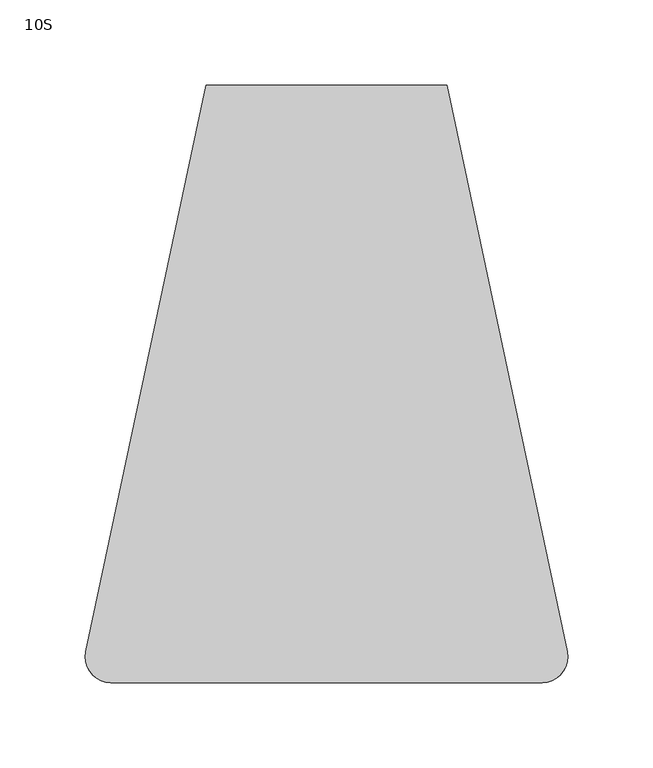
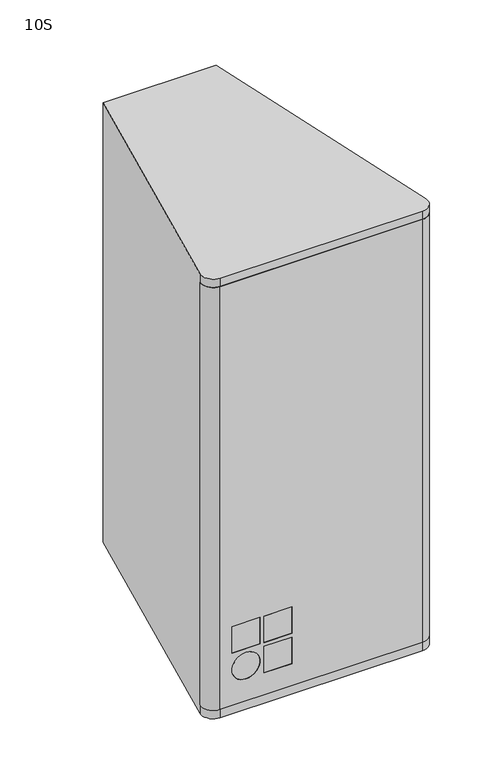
"""IFC4 building model written with IfcOpenShell, lengths in millimetres: proxy geometry, d&b xS-Series 10S Point Source : 10S."""

from ifc_helpers import new_model, si_unit, point, frame, frame_2d, origin, place, context, project, spatial, polyline, circle_curve, trimmed, segment, composite_curve, outline, extrude, source, transform, mapped, element, save
from ifc_brep_helpers import plane_surface, cylinder_surface, revolved_surface, advanced_brep


def proxy_10s_97c97104(model_context):
    return source(origin(), model_context, "Body", "SolidModel", [
        extrude(outline(composite_curve([segment(trimmed(circle_curve(frame_2d((126.4765427, -107.0221826)), 10.0), [point((135.9777986, -103.9035073))], [point((126.4765427, -117.0221826))], False, "CARTESIAN"), True, "CONTINUOUS"), segment(polyline([(126.4765427, -117.0221826), (-126.4765427, -117.0221826)]), True, "CONTINUOUS"), segment(trimmed(circle_curve(frame_2d((-126.4765427, -107.0221826)), 10.0), [point((-126.4765427, -117.0221826))], [point((-135.9777986, -103.9035073))], False, "CARTESIAN"), True, "CONTINUOUS"), segment(polyline([(-135.9777986, -103.9035073), (135.9777986, -103.9035073)]), True, "CONTINUOUS")], self_intersect=False)), frame((0.0, 0.0, -279.0), z_axis=(0.0, 0.0, 1.0), x_axis=(1.0, 0.0, 0.0)), (0.0, 0.0, 1.0), 558.0),
        advanced_brep(
        [(-76.4765427, -122.0221826, -175.0), (-76.4765427, -117.0221826, -175.0), (-76.4765427, -117.0221826, -210.0), (-76.4765427, -122.0221826, -210.0), (-111.4765427, -117.0221826, -210.0), (-111.4765427, -122.0221826, -210.0), (-111.4765427, -117.0221826, -175.0), (-111.4765427, -122.0221826, -175.0), (-36.4765427, -122.0221826, -175.0), (-36.4765427, -117.0221826, -175.0), (-36.4765427, -117.0221826, -210.0), (-36.4765427, -122.0221826, -210.0), (-71.4765427, -117.0221826, -210.0), (-71.4765427, -122.0221826, -210.0), (-71.4765427, -117.0221826, -175.0), (-71.4765427, -122.0221826, -175.0), (-36.4765427, -122.0221826, -215.0), (-36.4765427, -117.0221826, -215.0), (-36.4765427, -117.0221826, -250.0), (-36.4765427, -122.0221826, -250.0), (-71.4765427, -117.0221826, -250.0), (-71.4765427, -122.0221826, -250.0), (-71.4765427, -117.0221826, -215.0), (-71.4765427, -122.0221826, -215.0), (-93.9765427, -122.0221826, -250.0), (-93.9765427, -117.0221826, -250.0), (-93.9765427, -117.0221826, -215.0), (-93.9765427, -122.0221826, -215.0), (-126.4765427, -122.0221826, 279.0), (126.4765427, -122.0221826, 279.0), (141.1487567, -103.9035073, 279.0), (135.9777986, -103.9035073, 279.0), (126.4765427, -117.0221826, 279.0), (-126.4765427, -117.0221826, 279.0), (-135.9777986, -103.9035073, 279.0), (-141.1487567, -103.9035073, 279.0), (-126.4765427, -122.0221826, -279.0), (-141.1487567, -103.9035073, -279.0), (-135.9777986, -103.9035073, -279.0), (-126.4765427, -117.0221826, -279.0), (126.4765427, -117.0221826, -279.0), (135.9777986, -103.9035073, -279.0), (141.1487567, -103.9035073, -279.0), (126.4765427, -122.0221826, -279.0)],
        [
            (0, 1),
            (1, 2),
            (2, 3),
            (3, 0),
            (2, 4),
            (4, 5),
            (5, 3),
            (4, 6),
            (6, 7),
            (7, 5),
            (0, 7),
            (6, 1),
            (8, 9),
            (9, 10),
            (10, 11),
            (11, 8),
            (10, 12),
            (12, 13),
            (13, 11),
            (12, 14),
            (14, 15),
            (15, 13),
            (8, 15),
            (14, 9),
            (16, 17),
            (17, 18),
            (18, 19),
            (19, 16),
            (18, 20),
            (20, 21),
            (21, 19),
            (20, 22),
            (22, 23),
            (23, 21),
            (16, 23),
            (22, 17),
            (24, 25),
            (25, 26, circle_curve(frame((-93.9765427, -117.0221826, -232.5), z_axis=(0.0, 1.0, 0.0), x_axis=(0.0, 0.0, 1.0)), 17.5)),
            (26, 27),
            (27, 24, circle_curve(frame((-93.9765427, -122.0221826, -232.5), z_axis=(0.0, -1.0, 0.0), x_axis=(0.0, 0.0, 1.0)), 17.5)),
            (24, 27, circle_curve(frame((-93.9765427, -122.0221826, -232.5), z_axis=(0.0, -1.0, 0.0), x_axis=(0.0, 0.0, 1.0)), 17.5)),
            (26, 25, circle_curve(frame((-93.9765427, -117.0221826, -232.5), z_axis=(0.0, 1.0, 0.0), x_axis=(0.0, 0.0, 1.0)), 17.5)),
            (28, 29),
            (29, 30, circle_curve(frame((126.4765427, -107.0221826, 279.0), z_axis=(0.0, 0.0, 1.0), x_axis=(0.0, -1.0, 0.0)), 15.0)),
            (30, 31),
            (31, 32, circle_curve(frame((126.4765427, -107.0221826, 279.0), z_axis=(0.0, 0.0, -1.0), x_axis=(0.0, -1.0, 0.0)), 10.0)),
            (32, 33),
            (33, 34, circle_curve(frame((-126.4765427, -107.0221826, 279.0), z_axis=(0.0, 0.0, -1.0), x_axis=(0.0, -1.0, 0.0)), 10.0)),
            (34, 35),
            (35, 28, circle_curve(frame((-126.4765427, -107.0221826, 279.0), z_axis=(0.0, 0.0, 1.0), x_axis=(0.0, -1.0, 0.0)), 15.0)),
            (36, 37, circle_curve(frame((-126.4765427, -107.0221826, -279.0), z_axis=(0.0, 0.0, -1.0), x_axis=(0.0, -1.0, 0.0)), 15.0)),
            (37, 38),
            (38, 39, circle_curve(frame((-126.4765427, -107.0221826, -279.0), z_axis=(0.0, 0.0, 1.0), x_axis=(0.0, -1.0, 0.0)), 10.0)),
            (39, 40),
            (40, 41, circle_curve(frame((126.4765427, -107.0221826, -279.0), z_axis=(0.0, 0.0, 1.0), x_axis=(0.0, -1.0, 0.0)), 10.0)),
            (41, 42),
            (42, 43, circle_curve(frame((126.4765427, -107.0221826, -279.0), z_axis=(0.0, 0.0, -1.0), x_axis=(0.0, -1.0, 0.0)), 15.0)),
            (43, 36),
            (28, 36),
            (43, 29),
            (42, 30),
            (41, 31),
            (40, 32),
            (39, 33),
            (38, 34),
            (37, 35),
        ],
        [
            plane_surface(frame((-76.4765427, -122.0221826, -210.0), z_axis=(-1.0, 0.0, 0.0), x_axis=(0.0, 1.0, 0.0))),
            plane_surface(frame((-111.4765427, -122.0221826, -210.0), z_axis=(0.0, 0.0, 1.0), x_axis=(0.0, 1.0, 0.0))),
            plane_surface(frame((-111.4765427, -122.0221826, -175.0), z_axis=(1.0, 0.0, 0.0), x_axis=(0.0, 1.0, 0.0))),
            plane_surface(frame((-76.4765427, -122.0221826, -175.0), z_axis=(0.0, 0.0, -1.0), x_axis=(0.0, 1.0, 0.0))),
            plane_surface(frame((-36.4765427, -122.0221826, -210.0), z_axis=(-1.0, 0.0, 0.0), x_axis=(0.0, 1.0, 0.0))),
            plane_surface(frame((-71.4765427, -122.0221826, -210.0), z_axis=(0.0, 0.0, 1.0), x_axis=(0.0, 1.0, 0.0))),
            plane_surface(frame((-71.4765427, -122.0221826, -175.0), z_axis=(1.0, 0.0, 0.0), x_axis=(0.0, 1.0, 0.0))),
            plane_surface(frame((-36.4765427, -122.0221826, -175.0), z_axis=(0.0, 0.0, -1.0), x_axis=(0.0, 1.0, 0.0))),
            plane_surface(frame((-36.4765427, -122.0221826, -250.0), z_axis=(-1.0, 0.0, 0.0), x_axis=(0.0, 1.0, 0.0))),
            plane_surface(frame((-71.4765427, -122.0221826, -250.0), z_axis=(0.0, 0.0, 1.0), x_axis=(0.0, 1.0, 0.0))),
            plane_surface(frame((-71.4765427, -122.0221826, -215.0), z_axis=(1.0, 0.0, 0.0), x_axis=(0.0, 1.0, 0.0))),
            plane_surface(frame((-36.4765427, -122.0221826, -215.0), z_axis=(0.0, 0.0, -1.0), x_axis=(0.0, 1.0, 0.0))),
            revolved_surface(polyline([(-93.9765427, -122.0221826, -215.0), (-93.9765427, -117.0221826, -215.0)]), (-93.9765427, -89.2698909, -232.5), (0.0, -1.0, 0.0)),
            plane_surface(frame((126.4765427, -122.0221826, 279.0), z_axis=(0.0, 0.0, 1.0), x_axis=(1.0, 0.0, 0.0))),
            plane_surface(frame((126.4765427, -122.0221826, -279.0), z_axis=(0.0, 0.0, -1.0), x_axis=(-1.0, 0.0, 0.0))),
            plane_surface(frame((-126.4765427, -122.0221826, 279.0), z_axis=(0.0, -1.0, 0.0), x_axis=(0.0, 0.0, -1.0))),
            cylinder_surface(frame((126.4765427, -107.0221826, -279.0), z_axis=(0.0, 0.0, 1.0), x_axis=(0.0, -1.0, 0.0)), 15.0),
            plane_surface(frame((141.1487567, -103.9035073, 279.0), z_axis=(0.0, 1.0, 0.0), x_axis=(0.0, 0.0, -1.0))),
            revolved_surface(polyline([(126.4765427, -117.0221826, -279.0), (126.4765427, -117.0221826, 279.0)]), (126.4765427, -107.0221826, -279.0), (0.0, 0.0, -1.0)),
            plane_surface(frame((126.4765427, -117.0221826, 279.0), z_axis=(0.0, 1.0, 0.0), x_axis=(0.0, 0.0, -1.0))),
            revolved_surface(polyline([(-126.4765427, -117.0221826, -279.0), (-126.4765427, -117.0221826, 279.0)]), (-126.4765427, -107.0221826, -279.0), (0.0, 0.0, -1.0)),
            plane_surface(frame((-135.9777986, -103.9035073, 279.0), z_axis=(0.0, 1.0, 0.0), x_axis=(0.0, 0.0, -1.0))),
            cylinder_surface(frame((-126.4765427, -107.0221826, -279.0), z_axis=(0.0, 0.0, 1.0), x_axis=(0.0, -1.0, 0.0)), 15.0),
        ],
        [
            (0, [[1, 2, 3, 4]]),
            (1, [[-3, 5, 6, 7]]),
            (2, [[-6, 8, 9, 10]]),
            (3, [[-1, 11, -9, 12]]),
            (4, [[13, 14, 15, 16]]),
            (5, [[-15, 17, 18, 19]]),
            (6, [[-18, 20, 21, 22]]),
            (7, [[-13, 23, -21, 24]]),
            (8, [[25, 26, 27, 28]]),
            (9, [[-27, 29, 30, 31]]),
            (10, [[-30, 32, 33, 34]]),
            (11, [[-25, 35, -33, 36]]),
            (12, [[37, 38, 39, 40]]),
            (12, [[-37, 41, -39, 42]]),
            (13, [[43, 44, 45, 46, 47, 48, 49, 50]]),
            (14, [[51, 52, 53, 54, 55, 56, 57, 58]]),
            (15, [[-43, 59, -58, 60], [-4, -7, -10, -11], [-16, -19, -22, -23], [-28, -31, -34, -35], [-40, -41]]),
            (16, [[-44, -60, -57, 61]]),
            (17, [[-45, -61, -56, 62]]),
            (18, [[-46, -62, -55, 63]]),
            (19, [[-47, -63, -54, 64], [-2, -12, -8, -5], [-14, -24, -20, -17], [-26, -36, -32, -29], [-38, -42]]),
            (20, [[-48, -64, -53, 65]]),
            (21, [[-49, -65, -52, 66]]),
            (22, [[-50, -66, -51, -59]]),
        ],
    ),
        extrude(outline(polyline([(-76.4765427, -122.0221826), (-111.4765427, -122.0221826), (-111.4765427, -117.0221826), (-76.4765427, -117.0221826), (-76.4765427, -122.0221826)])), frame((0.0, 0.0, -210.0), z_axis=(0.0, 0.0, 1.0), x_axis=(1.0, 0.0, 0.0)), (0.0, 0.0, 1.0), 35.0),
        extrude(outline(polyline([(-36.4765427, -122.0221826), (-71.4765427, -122.0221826), (-71.4765427, -117.0221826), (-36.4765427, -117.0221826), (-36.4765427, -122.0221826)])), frame((0.0, 0.0, -210.0), z_axis=(0.0, 0.0, 1.0), x_axis=(1.0, 0.0, 0.0)), (0.0, 0.0, 1.0), 35.0),
        extrude(outline(polyline([(-36.4765427, -122.0221826), (-71.4765427, -122.0221826), (-71.4765427, -117.0221826), (-36.4765427, -117.0221826), (-36.4765427, -122.0221826)])), frame((0.0, 0.0, -250.0), z_axis=(0.0, 0.0, 1.0), x_axis=(1.0, 0.0, 0.0)), (0.0, 0.0, 1.0), 35.0),
        extrude(outline(composite_curve([segment(trimmed(circle_curve(frame_2d((-232.5, -93.9765427)), 17.5), [point((-250.0, -93.9765427))], [point((-215.0, -93.9765427))], False, "CARTESIAN"), True, "CONTINUOUS"), segment(trimmed(circle_curve(frame_2d((-232.5, -93.9765427)), 17.5), [point((-215.0, -93.9765427))], [point((-250.0, -93.9765427))], False, "CARTESIAN"), True, "CONTINUOUS")], self_intersect=False)), frame((0.0, -122.0221826, 0.0), z_axis=(0.0, 1.0, 0.0), x_axis=(0.0, 0.0, 1.0)), (0.0, 0.0, 1.0), 5.0),
        advanced_brep(
        [(-141.1487567, -103.9035073, -290.0), (-70.6052034, 227.9778174, -290.0), (70.6052034, 227.9778174, -290.0), (141.1487567, -103.9035073, -290.0), (126.4765427, -122.0221826, -290.0), (-126.4765427, -122.0221826, -290.0), (141.1487567, -103.9035073, 290.0), (70.6052034, 227.9778174, 290.0), (-70.6052034, 227.9778174, 290.0), (-141.1487567, -103.9035073, 290.0), (-126.4765427, -122.0221826, 290.0), (126.4765427, -122.0221826, 290.0), (-35.0, 224.9778174, 126.0), (-26.0, 224.9778174, 135.0), (26.0, 224.9778174, 135.0), (35.0, 224.9778174, 126.0), (35.0, 224.9778174, 14.0), (26.0, 224.9778174, 5.0), (-26.0, 224.9778174, 5.0), (-35.0, 224.9778174, 14.0), (-25.9695321, 224.9778174, 23.0304679), (-13.9695321, 224.9778174, 11.0304679), (13.9695321, 224.9778174, 11.0304679), (25.9695321, 224.9778174, 23.0304679), (25.9695321, 224.9778174, 95.9695321), (13.9695321, 224.9778174, 107.9695321), (-13.9695321, 224.9778174, 107.9695321), (-25.9695321, 224.9778174, 95.9695321), (-35.0, 227.9778174, 126.0), (-26.0, 227.9778174, 135.0), (26.0, 227.9778174, 135.0), (35.0, 227.9778174, 126.0), (35.0, 227.9778174, 14.0), (26.0, 227.9778174, 5.0), (-26.0, 227.9778174, 5.0), (-35.0, 227.9778174, 14.0), (-13.9695321, 208.9778174, 11.0304679), (-25.9695321, 208.9778174, 23.0304679), (-25.9695321, 208.9778174, 95.9695321), (-13.9695321, 208.9778174, 107.9695321), (13.9695321, 208.9778174, 107.9695321), (25.9695321, 208.9778174, 95.9695321), (25.9695321, 208.9778174, 23.0304679), (13.9695321, 208.9778174, 11.0304679), (141.1487567, -103.9035073, 279.0), (126.4765427, -122.0221826, 279.0), (-126.4765427, -122.0221826, 279.0), (-141.1487567, -103.9035073, 279.0), (-141.1487567, -103.9035073, -279.0), (-126.4765427, -122.0221826, -279.0), (126.4765427, -122.0221826, -279.0), (141.1487567, -103.9035073, -279.0)],
        [
            (0, 1),
            (1, 2),
            (2, 3),
            (3, 4, circle_curve(frame((126.4765427, -107.0221826, -290.0), z_axis=(0.0, 0.0, -1.0), x_axis=(0.0, -1.0, 0.0)), 15.0)),
            (4, 5),
            (5, 0, circle_curve(frame((-126.4765427, -107.0221826, -290.0), z_axis=(0.0, 0.0, -1.0), x_axis=(0.0, -1.0, 0.0)), 15.0)),
            (6, 7),
            (7, 8),
            (8, 9),
            (9, 10, circle_curve(frame((-126.4765427, -107.0221826, 290.0), z_axis=(0.0, 0.0, 1.0), x_axis=(0.0, -1.0, 0.0)), 15.0)),
            (10, 11),
            (11, 6, circle_curve(frame((126.4765427, -107.0221826, 290.0), z_axis=(0.0, 0.0, 1.0), x_axis=(0.0, -1.0, 0.0)), 15.0)),
            (12, 13, circle_curve(frame((-26.0, 224.9778174, 126.0), z_axis=(0.0, 1.0, 0.0), x_axis=(-1.0, 0.0, 0.0)), 9.0)),
            (13, 14),
            (14, 15, circle_curve(frame((26.0, 224.9778174, 126.0), z_axis=(0.0, 1.0, 0.0), x_axis=(-1.0, 0.0, 0.0)), 9.0)),
            (15, 16),
            (16, 17, circle_curve(frame((26.0, 224.9778174, 14.0), z_axis=(0.0, 1.0, 0.0), x_axis=(-1.0, 0.0, 0.0)), 9.0)),
            (17, 18),
            (18, 19, circle_curve(frame((-26.0, 224.9778174, 14.0), z_axis=(0.0, 1.0, 0.0), x_axis=(-1.0, 0.0, 0.0)), 9.0)),
            (19, 12),
            (20, 21, circle_curve(frame((-13.9695321, 224.9778174, 23.0304679), z_axis=(0.0, -1.0, 0.0), x_axis=(-1.0, 0.0, 0.0)), 12.0)),
            (21, 22),
            (22, 23, circle_curve(frame((13.9695321, 224.9778174, 23.0304679), z_axis=(0.0, -1.0, 0.0), x_axis=(-1.0, 0.0, 0.0)), 12.0)),
            (23, 24),
            (24, 25, circle_curve(frame((13.9695321, 224.9778174, 95.9695321), z_axis=(0.0, -1.0, 0.0), x_axis=(-1.0, 0.0, 0.0)), 12.0)),
            (25, 26),
            (26, 27, circle_curve(frame((-13.9695321, 224.9778174, 95.9695321), z_axis=(0.0, -1.0, 0.0), x_axis=(-1.0, 0.0, 0.0)), 12.0)),
            (27, 20),
            (12, 28),
            (28, 29, circle_curve(frame((-26.0, 227.9778174, 126.0), z_axis=(0.0, 1.0, 0.0), x_axis=(-1.0, 0.0, 0.0)), 9.0)),
            (29, 13),
            (29, 30),
            (30, 14),
            (30, 31, circle_curve(frame((26.0, 227.9778174, 126.0), z_axis=(0.0, 1.0, 0.0), x_axis=(-1.0, 0.0, 0.0)), 9.0)),
            (31, 15),
            (31, 32),
            (32, 16),
            (32, 33, circle_curve(frame((26.0, 227.9778174, 14.0), z_axis=(0.0, 1.0, 0.0), x_axis=(-1.0, 0.0, 0.0)), 9.0)),
            (33, 17),
            (33, 34),
            (34, 18),
            (34, 35, circle_curve(frame((-26.0, 227.9778174, 14.0), z_axis=(0.0, 1.0, 0.0), x_axis=(-1.0, 0.0, 0.0)), 9.0)),
            (35, 19),
            (35, 28),
            (36, 37, circle_curve(frame((-13.9695321, 208.9778174, 23.0304679), z_axis=(0.0, 1.0, 0.0), x_axis=(-1.0, 0.0, 0.0)), 12.0)),
            (37, 38),
            (38, 39, circle_curve(frame((-13.9695321, 208.9778174, 95.9695321), z_axis=(0.0, 1.0, 0.0), x_axis=(-1.0, 0.0, 0.0)), 12.0)),
            (39, 40),
            (40, 41, circle_curve(frame((13.9695321, 208.9778174, 95.9695321), z_axis=(0.0, 1.0, 0.0), x_axis=(-1.0, 0.0, 0.0)), 12.0)),
            (41, 42),
            (42, 43, circle_curve(frame((13.9695321, 208.9778174, 23.0304679), z_axis=(0.0, 1.0, 0.0), x_axis=(-1.0, 0.0, 0.0)), 12.0)),
            (43, 36),
            (44, 45, circle_curve(frame((126.4765427, -107.0221826, 279.0), z_axis=(0.0, 0.0, -1.0), x_axis=(0.0, -1.0, 0.0)), 15.0)),
            (45, 46),
            (46, 47, circle_curve(frame((-126.4765427, -107.0221826, 279.0), z_axis=(0.0, 0.0, -1.0), x_axis=(0.0, -1.0, 0.0)), 15.0)),
            (47, 44),
            (48, 49, circle_curve(frame((-126.4765427, -107.0221826, -279.0), z_axis=(0.0, 0.0, 1.0), x_axis=(0.0, -1.0, 0.0)), 15.0)),
            (49, 50),
            (50, 51, circle_curve(frame((126.4765427, -107.0221826, -279.0), z_axis=(0.0, 0.0, 1.0), x_axis=(0.0, -1.0, 0.0)), 15.0)),
            (51, 48),
            (0, 48),
            (48, 47),
            (47, 9),
            (8, 1),
            (7, 2),
            (6, 44),
            (44, 51),
            (51, 3),
            (36, 21),
            (20, 37),
            (27, 38),
            (26, 39),
            (25, 40),
            (24, 41),
            (23, 42),
            (22, 43),
            (46, 10),
            (45, 11),
            (5, 49),
            (4, 50),
        ],
        [
            plane_surface(frame((-73.0301705, 216.5692442, -290.0), z_axis=(0.0, 0.0, -1.0), x_axis=(0.20791169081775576, 0.9781476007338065, 0.0))),
            plane_surface(frame((-73.0301705, 216.5692442, 290.0), z_axis=(0.0, 0.0, 1.0), x_axis=(-0.20791169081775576, -0.9781476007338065, 0.0))),
            plane_surface(frame((-35.0, 224.9778174, 126.0), z_axis=(0.0, 1.0, 0.0), x_axis=(0.0, 0.0, -1.0))),
            revolved_surface(polyline([(-35.0, 227.9778174, 126.0), (-35.0, 224.9778174, 126.0)]), (-26.0, 224.9778174, 126.0), (0.0, 1.0, 0.0)),
            plane_surface(frame((-26.0, 227.9778174, 135.0), z_axis=(0.0, 0.0, -1.0), x_axis=(0.0, -1.0, 0.0))),
            revolved_surface(polyline([(17.0, 227.9778174, 126.0), (17.0, 224.9778174, 126.0)]), (26.0, 224.9778174, 126.0), (0.0, 1.0, 0.0)),
            plane_surface(frame((35.0, 227.9778174, 126.0), z_axis=(-1.0, 0.0, 0.0), x_axis=(0.0, -1.0, 0.0))),
            revolved_surface(polyline([(17.0, 227.9778174, 14.0), (17.0, 224.9778174, 14.0)]), (26.0, 224.9778174, 14.0), (0.0, 1.0, 0.0)),
            plane_surface(frame((26.0, 227.9778174, 5.0), z_axis=(0.0, 0.0, 1.0), x_axis=(0.0, -1.0, 0.0))),
            revolved_surface(polyline([(-35.0, 227.9778174, 14.0), (-35.0, 224.9778174, 14.0)]), (-26.0, 224.9778174, 14.0), (0.0, 1.0, 0.0)),
            plane_surface(frame((-35.0, 227.9778174, 14.0), z_axis=(1.0, 0.0, 0.0), x_axis=(0.0, -1.0, 0.0))),
            plane_surface(frame((-25.9695321, 208.9778174, 23.0304679), z_axis=(0.0, 1.0, 0.0), x_axis=(0.0, 0.0, -1.0))),
            plane_surface(frame((-126.4765427, -122.0221826, 279.0), z_axis=(0.0, 0.0, -1.0), x_axis=(-1.0, 0.0, 0.0))),
            plane_surface(frame((-126.4765427, -122.0221826, -279.0), z_axis=(0.0, 0.0, 1.0), x_axis=(1.0, 0.0, 0.0))),
            plane_surface(frame((-141.1487567, -103.9035073, -290.0), z_axis=(-0.9781476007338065, 0.20791169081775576, 0.0), x_axis=(0.0, 0.0, 1.0))),
            plane_surface(frame((-70.6052034, 227.9778174, -290.0), z_axis=(0.0, 1.0, 0.0), x_axis=(0.0, 0.0, 1.0))),
            plane_surface(frame((70.6052034, 227.9778174, -290.0), z_axis=(0.9781476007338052, 0.2079116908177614, 0.0), x_axis=(0.0, 0.0, 1.0))),
            plane_surface(frame((141.1487567, -103.9035073, -290.0), z_axis=(0.0, -1.0, 0.0), x_axis=(0.0, 0.0, 1.0))),
            revolved_surface(polyline([(-25.969532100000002, 224.9778174, 23.0304679), (-25.969532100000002, 208.9778174, 23.0304679)]), (-13.9695321, 208.9778174, 23.0304679), (0.0, 1.0, 0.0)),
            plane_surface(frame((-25.9695321, 227.9778174, 23.0304679), z_axis=(1.0, 0.0, 0.0), x_axis=(0.0, -1.0, 0.0))),
            revolved_surface(polyline([(-25.969532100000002, 224.9778174, 95.9695321), (-25.969532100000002, 208.9778174, 95.9695321)]), (-13.9695321, 208.9778174, 95.9695321), (0.0, 1.0, 0.0)),
            plane_surface(frame((-13.9695321, 227.9778174, 107.9695321), z_axis=(0.0, 0.0, -1.0), x_axis=(0.0, -1.0, 0.0))),
            revolved_surface(polyline([(1.9695321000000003, 224.9778174, 95.9695321), (1.9695321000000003, 208.9778174, 95.9695321)]), (13.9695321, 208.9778174, 95.9695321), (0.0, 1.0, 0.0)),
            plane_surface(frame((25.9695321, 227.9778174, 95.9695321), z_axis=(-1.0, 0.0, 0.0), x_axis=(0.0, -1.0, 0.0))),
            revolved_surface(polyline([(1.9695321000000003, 224.9778174, 23.0304679), (1.9695321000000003, 208.9778174, 23.0304679)]), (13.9695321, 208.9778174, 23.0304679), (0.0, 1.0, 0.0)),
            plane_surface(frame((13.9695321, 227.9778174, 11.0304679), z_axis=(0.0, 0.0, 1.0), x_axis=(0.0, -1.0, 0.0))),
            cylinder_surface(frame((-126.4765427, -107.0221826, 279.0), z_axis=(0.0, 0.0, 1.0), x_axis=(0.0, -1.0, 0.0)), 15.0),
            plane_surface(frame((-126.4765427, -122.0221826, 290.0), z_axis=(0.0, -1.0, 0.0), x_axis=(0.0, 0.0, -1.0))),
            cylinder_surface(frame((126.4765427, -107.0221826, 279.0), z_axis=(0.0, 0.0, 1.0), x_axis=(0.0, -1.0, 0.0)), 15.0),
            cylinder_surface(frame((-126.4765427, -107.0221826, -290.0), z_axis=(0.0, 0.0, 1.0), x_axis=(0.0, -1.0, 0.0)), 15.0),
            plane_surface(frame((-126.4765427, -122.0221826, -279.0), z_axis=(0.0, -1.0, 0.0), x_axis=(0.0, 0.0, -1.0))),
            cylinder_surface(frame((126.4765427, -107.0221826, -290.0), z_axis=(0.0, 0.0, 1.0), x_axis=(0.0, -1.0, 0.0)), 15.0),
        ],
        [
            (0, [[1, 2, 3, 4, 5, 6]]),
            (1, [[7, 8, 9, 10, 11, 12]]),
            (2, [[13, 14, 15, 16, 17, 18, 19, 20], [21, 22, 23, 24, 25, 26, 27, 28]]),
            (3, [[-13, 29, 30, 31]]),
            (4, [[-14, -31, 32, 33]]),
            (5, [[-15, -33, 34, 35]]),
            (6, [[-16, -35, 36, 37]]),
            (7, [[-17, -37, 38, 39]]),
            (8, [[-18, -39, 40, 41]]),
            (9, [[-19, -41, 42, 43]]),
            (10, [[-20, -43, 44, -29]]),
            (11, [[45, 46, 47, 48, 49, 50, 51, 52]]),
            (12, [[53, 54, 55, 56]]),
            (13, [[57, 58, 59, 60]]),
            (14, [[-1, 61, 62, 63, -9, 64]]),
            (15, [[-2, -64, -8, 65], [-30, -44, -42, -40, -38, -36, -34, -32]]),
            (16, [[-3, -65, -7, 66, 67, 68]]),
            (17, [[-56, -62, -60, -67]]),
            (18, [[-45, 69, -21, 70]]),
            (19, [[-46, -70, -28, 71]]),
            (20, [[-47, -71, -27, 72]]),
            (21, [[-48, -72, -26, 73]]),
            (22, [[-49, -73, -25, 74]]),
            (23, [[-50, -74, -24, 75]]),
            (24, [[-51, -75, -23, 76]]),
            (25, [[-52, -76, -22, -69]]),
            (26, [[-10, -63, -55, 77]]),
            (27, [[-11, -77, -54, 78]]),
            (28, [[-12, -78, -53, -66]]),
            (29, [[-57, -61, -6, 79]]),
            (30, [[-58, -79, -5, 80]]),
            (31, [[-59, -80, -4, -68]]),
        ],
    ),
    ])


if __name__ == "__main__":
    model = new_model("IFC4")
    model_context = context("Model", 3, world=origin())
    ifc_project = project(units=[si_unit("LENGTHUNIT", "METRE", prefix="MILLI")], contexts=[model_context])
    site = spatial("IfcSite", under=ifc_project)
    building = spatial("IfcBuilding", under=site)
    placement = place(None, origin())
    proxy_10s_shape = proxy_10s_97c97104(model_context)
    element("IfcBuildingElementProxy", 1, Name="d&b xS-Series 10S Point Source : 10S", ObjectType="d&b xS-Series 10S Point Source : 10S", at=placement, inside=building, context=model_context, shape_type="MappedRepresentation", body=[
        mapped(proxy_10s_shape, transform((0.0, 0.0, 0.0), x_axis=(1.0, 0.0, 0.0), y_axis=(0.0, 1.0, 0.0), z_axis=(0.0, 0.0, 1.0))),
    ])
    save(model, "model.ifc")
